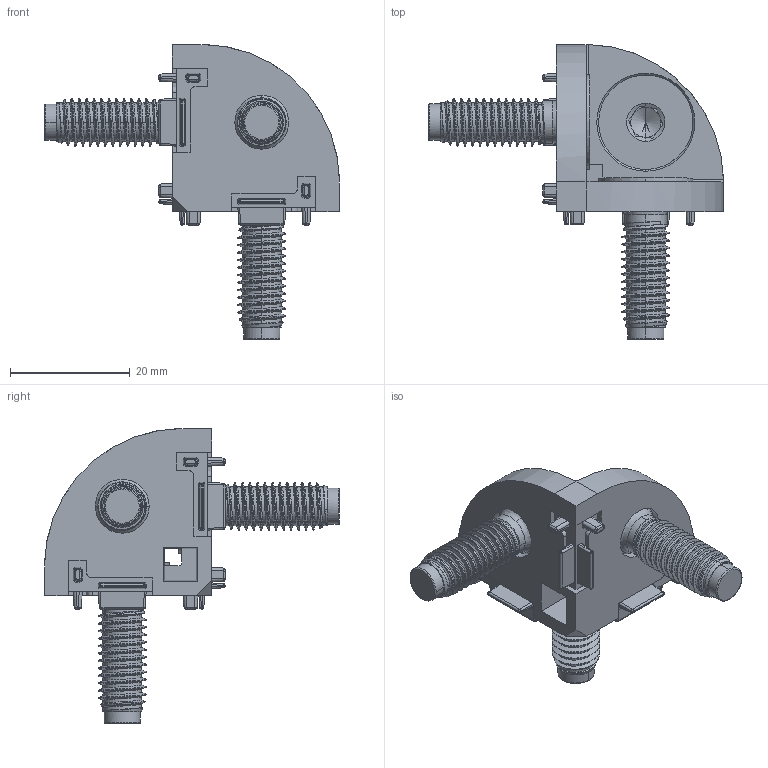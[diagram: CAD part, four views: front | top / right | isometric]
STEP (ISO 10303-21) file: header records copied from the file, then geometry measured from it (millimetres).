
FILE_DESCRIPTION (( 'STEP AP203' ), '1' );
FILE_NAME ('093we301n08s02.STEP', '2014-02-10T16:26:37', ( 'Fath' ), ( 'Hewlett-Packard Company' ), 'SwSTEP 2.0', 'SolidWorks 2014', '' );
FILE_SCHEMA (( 'CONFIG_CONTROL_DESIGN' ));
Length unit declared in the file: millimetre
Products named in the file (1): 093we301n08s02
Bounding box: 49.35 x 49.35 x 49.35 mm (x, y, z)
Volume: 10228.3 mm3; surface area: 8279.8 mm2
Topology: 4 solids, 4 shells, 609 faces, 1610 edges, 1008 vertices
Faces by surface type: cylinder 285, plane 150, bspline 114, cone 60
Entity records: 27787 total; most frequent: CARTESIAN_POINT 14443, ORIENTED_EDGE 3184, DIRECTION 2354, EDGE_CURVE 1592, VERTEX_POINT 1008, AXIS2_PLACEMENT_3D 844, LINE 666, VECTOR 666
